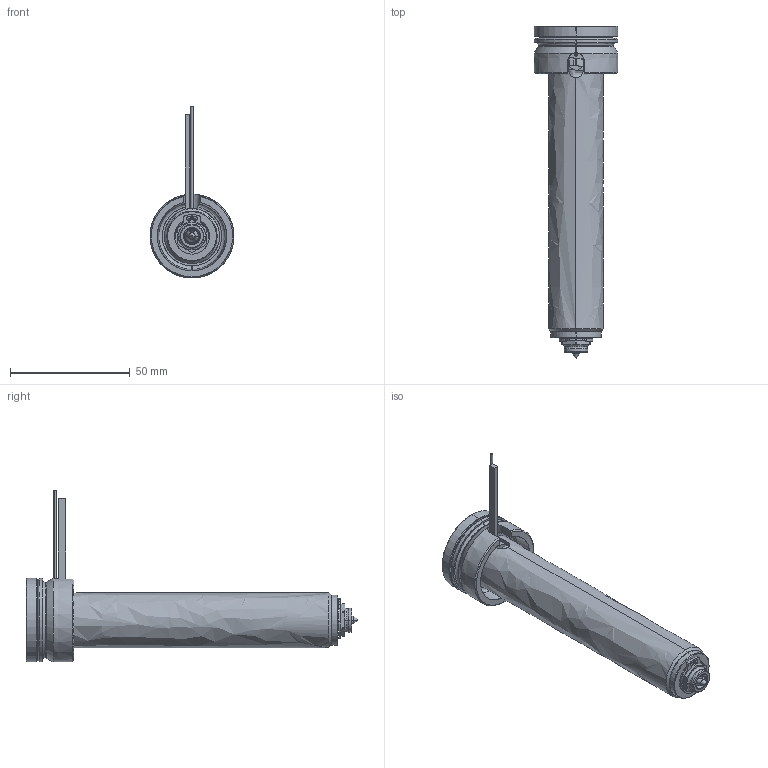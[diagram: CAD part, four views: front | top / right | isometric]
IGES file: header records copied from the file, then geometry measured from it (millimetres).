
Start section: SolidWorks IGES file using analytic representation for surfaces
Global section: file name: C:\Documents and Settings\ws-20\Desktop\TEM\UGEP3053-S-A-0 [Øf-0.70 ØC-6.0].IGS; native system: SolidWorks 2012; preprocessor: SolidWorks 2012; author: ws-20; date: 120402.112837; units: millimetre
Bounding box: 35 x 138.8 x 71.9 mm (x, y, z)
Surface area: 28180.5 mm2 (no closed solid volume)
Topology: 0 solids, 0 shells, 141 faces, 2216 edges, 2216 vertices
Faces by surface type: revolution 87, bspline 54
